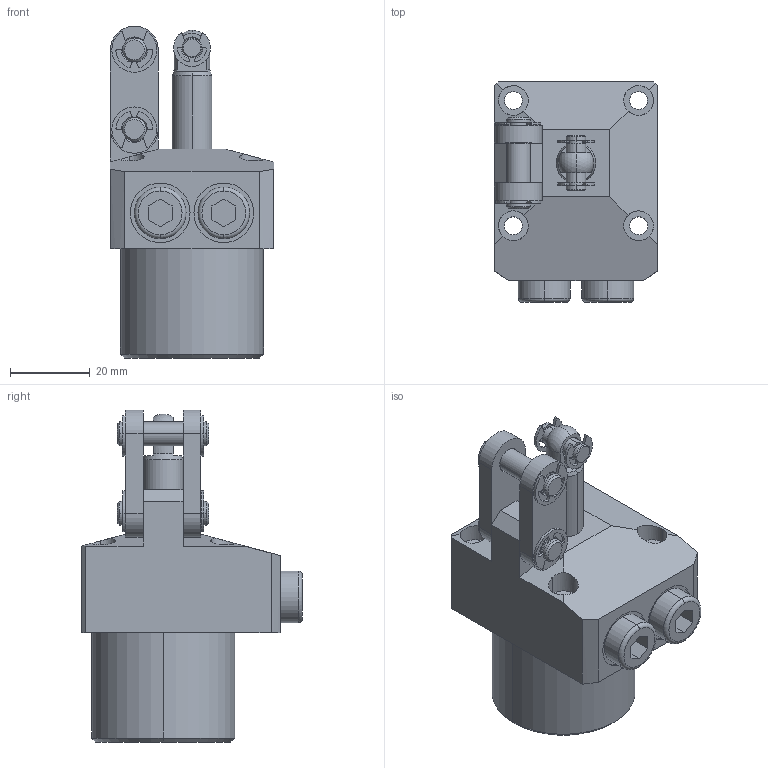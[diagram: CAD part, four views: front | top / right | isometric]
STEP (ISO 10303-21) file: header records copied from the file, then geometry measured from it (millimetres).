
FILE_DESCRIPTION (( 'STEP AP214' ), '1' );
FILE_NAME ('4171 121 L.STEP', '2017-10-17T05:56:45', ( '' ), ( '' ), 'SwSTEP 2.0', 'SolidWorks 2015', '' );
FILE_SCHEMA (( 'AUTOMOTIVE_DESIGN' ));
Length unit declared in the file: millimetre
Products named in the file (8): (type e)_is_IS 3075(Part3) - 4; (type e)_is_IS 3075(Part3) - 5; PIN; PLATE; PIN1; PR; BODY_4171 121 L; 4171 121 L
Assembly tree (13 placements, depth 2):
  4171 121 L
    BODY_4171 121 L
    PR
    PIN1
    PLATE  x2
    PIN  x2
    (type e)_is_IS 3075(Part3) - 5  x4
    (type e)_is_IS 3075(Part3) - 4  x2
Bounding box: 41 x 55.5 x 83.5 mm (x, y, z)
Volume: 78319.4 mm3; surface area: 20396.6 mm2
Topology: 13 solids, 13 shells, 377 faces, 941 edges, 603 vertices
Faces by surface type: cylinder 196, plane 125, cone 50, torus 4, sphere 2
Entity records: 7595 total; most frequent: CARTESIAN_POINT 1449, DIRECTION 1305, ORIENTED_EDGE 1150, EDGE_CURVE 575, AXIS2_PLACEMENT_3D 509, VERTEX_POINT 369, LINE 287, VECTOR 287
